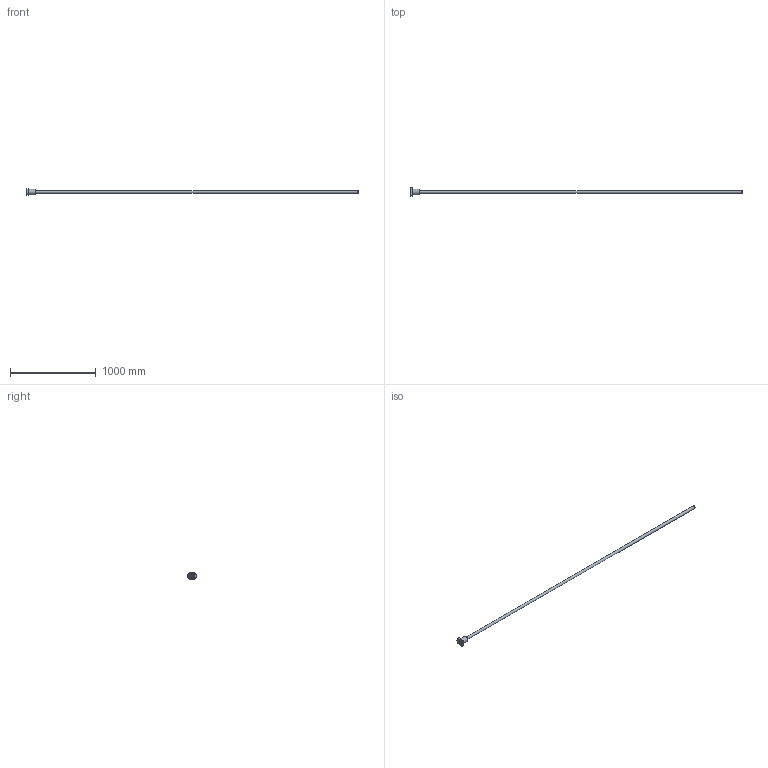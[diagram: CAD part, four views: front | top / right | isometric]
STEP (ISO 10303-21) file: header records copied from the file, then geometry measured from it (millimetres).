
FILE_DESCRIPTION( ( 'STEP AP203' ), ' ' );
FILE_NAME( 'p:/temp/worker_16/3916_4020/app_63_12018011810520040142744818fa3fd_000000_00_00_000000/format_0/BTK 3210V-5.3ZZ+3870LT_37520.stp', '2018-01-18T09:52:00', ( '' ), ( '' ), ' ', 'PARTsolutions', ' ' );
FILE_SCHEMA( ( 'CONFIG_CONTROL_DESIGN' ) );
Length unit declared in the file: millimetre
Products named in the file (3): BTK 3210V-5.3ZZ+3870LT_37520; _BTK 3210V-5.33752 Shaft; _BTK 3210V-5.3ZZ Nut
Assembly tree (2 placements, depth 2):
  BTK 3210V-5.3ZZ+3870LT_37520
    _BTK 3210V-5.33752 Shaft
    _BTK 3210V-5.3ZZ Nut
Bounding box: 3870 x 103 x 78 mm (x, y, z)
Volume: 3419567 mm3; surface area: 439255.2 mm2
Topology: 2 solids, 2 shells, 39 faces, 84 edges, 55 vertices
Faces by surface type: cylinder 17, plane 14, cone 8
Full cylindrical faces by diameter (mm): 4.917 x1, 9 x4, 25.6 x2, 32 x4, 38.4 x2, 60.3 x1, 67 x1
Entity records: 1202 total; most frequent: CARTESIAN_POINT 303, DIRECTION 174, ORIENTED_EDGE 122, AXIS2_PLACEMENT_3D 82, EDGE_LOOP 76, EDGE_CURVE 61, FACE_OUTER_BOUND 54, VERTEX_POINT 51
